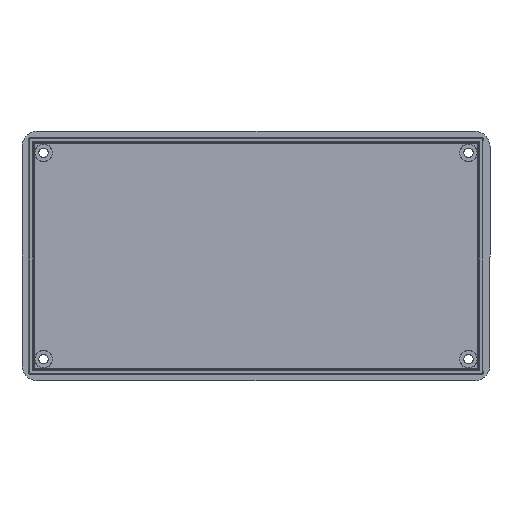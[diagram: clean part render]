
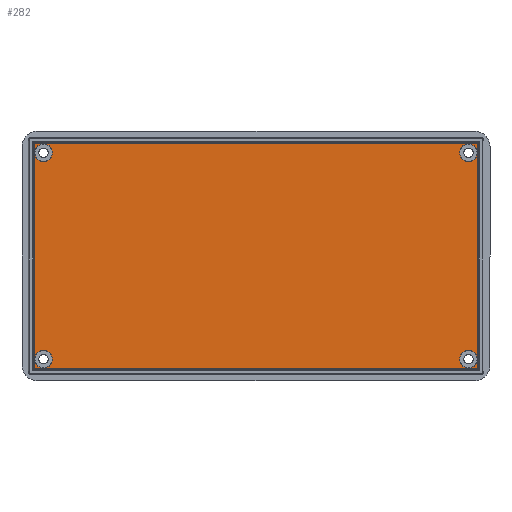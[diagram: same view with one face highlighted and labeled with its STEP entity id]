
A CAD part, top view. The second image highlights one B-rep face of the part: STEP entity #282.
In plain terms, the highlighted planar face has unit normal (0, 0, 1).
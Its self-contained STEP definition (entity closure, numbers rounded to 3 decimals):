
#59=CARTESIAN_POINT('',(71.121,-36.121,-1.9));
#60=VERTEX_POINT('',#59);
#68=CARTESIAN_POINT('',(-71.121,-36.121,-1.9));
#69=VERTEX_POINT('',#68);
#70=CARTESIAN_POINT('',(71.121,-36.121,-1.9));
#71=DIRECTION('',(-1.0,0.0,0.0));
#72=VECTOR('',#71,142.242);
#73=LINE('',#70,#72);
#74=EDGE_CURVE('',#60,#69,#73,.T.);
#100=CARTESIAN_POINT('',(-71.121,36.121,-1.9));
#101=VERTEX_POINT('',#100);
#102=CARTESIAN_POINT('',(-71.121,-36.121,-1.9));
#103=DIRECTION('',(0.0,1.0,0.0));
#104=VECTOR('',#103,72.242);
#105=LINE('',#102,#104);
#106=EDGE_CURVE('',#69,#101,#105,.T.);
#132=CARTESIAN_POINT('',(71.121,36.121,-1.9));
#133=VERTEX_POINT('',#132);
#134=CARTESIAN_POINT('',(-71.121,36.121,-1.9));
#135=DIRECTION('',(1.0,0.0,0.0));
#136=VECTOR('',#135,142.242);
#137=LINE('',#134,#136);
#138=EDGE_CURVE('',#101,#133,#137,.T.);
#162=CARTESIAN_POINT('',(71.121,36.121,-1.9));
#163=DIRECTION('',(0.0,-1.0,0.0));
#164=VECTOR('',#163,72.242);
#165=LINE('',#162,#164);
#166=EDGE_CURVE('',#133,#60,#165,.T.);
#227=CARTESIAN_POINT('',(0.,0.0,-1.9));
#228=DIRECTION('',(0.0,0.0,1.0));
#229=DIRECTION('',(1.0,0.0,0.0));
#230=AXIS2_PLACEMENT_3D('',#227,#228,#229);
#231=PLANE('',#230);
#232=ORIENTED_EDGE('',*,*,#74,.F.);
#233=ORIENTED_EDGE('',*,*,#166,.F.);
#234=ORIENTED_EDGE('',*,*,#138,.F.);
#235=ORIENTED_EDGE('',*,*,#106,.F.);
#236=EDGE_LOOP('',(#232,#233,#234,#235));
#237=FACE_OUTER_BOUND('',#236,.T.);
#238=CARTESIAN_POINT('',(70.933,-33.1,-1.9));
#239=VERTEX_POINT('',#238);
#240=CARTESIAN_POINT('',(68.1,-33.1,-1.9));
#241=DIRECTION('',(0.0,0.0,1.0));
#242=DIRECTION('',(-1.0,0.0,0.0));
#243=AXIS2_PLACEMENT_3D('',#240,#241,#242);
#244=CIRCLE('',#243,2.833);
#245=EDGE_CURVE('',#239,#239,#244,.T.);
#246=ORIENTED_EDGE('',*,*,#245,.F.);
#247=EDGE_LOOP('',(#246));
#248=FACE_BOUND('',#247,.T.);
#249=CARTESIAN_POINT('',(-65.267,33.1,-1.9));
#250=VERTEX_POINT('',#249);
#251=CARTESIAN_POINT('',(-68.1,33.1,-1.9));
#252=DIRECTION('',(0.0,0.0,1.0));
#253=DIRECTION('',(-1.0,0.0,0.0));
#254=AXIS2_PLACEMENT_3D('',#251,#252,#253);
#255=CIRCLE('',#254,2.833);
#256=EDGE_CURVE('',#250,#250,#255,.T.);
#257=ORIENTED_EDGE('',*,*,#256,.F.);
#258=EDGE_LOOP('',(#257));
#259=FACE_BOUND('',#258,.T.);
#260=CARTESIAN_POINT('',(70.933,33.1,-1.9));
#261=VERTEX_POINT('',#260);
#262=CARTESIAN_POINT('',(68.1,33.1,-1.9));
#263=DIRECTION('',(0.0,0.0,1.0));
#264=DIRECTION('',(-1.0,0.0,0.0));
#265=AXIS2_PLACEMENT_3D('',#262,#263,#264);
#266=CIRCLE('',#265,2.833);
#267=EDGE_CURVE('',#261,#261,#266,.T.);
#268=ORIENTED_EDGE('',*,*,#267,.F.);
#269=EDGE_LOOP('',(#268));
#270=FACE_BOUND('',#269,.T.);
#271=CARTESIAN_POINT('',(-65.267,-33.1,-1.9));
#272=VERTEX_POINT('',#271);
#273=CARTESIAN_POINT('',(-68.1,-33.1,-1.9));
#274=DIRECTION('',(0.0,0.0,1.0));
#275=DIRECTION('',(-1.0,0.0,0.0));
#276=AXIS2_PLACEMENT_3D('',#273,#274,#275);
#277=CIRCLE('',#276,2.833);
#278=EDGE_CURVE('',#272,#272,#277,.T.);
#279=ORIENTED_EDGE('',*,*,#278,.F.);
#280=EDGE_LOOP('',(#279));
#281=FACE_BOUND('',#280,.T.);
#282=ADVANCED_FACE('',(#237,#248,#259,#270,#281),#231,.T.);
